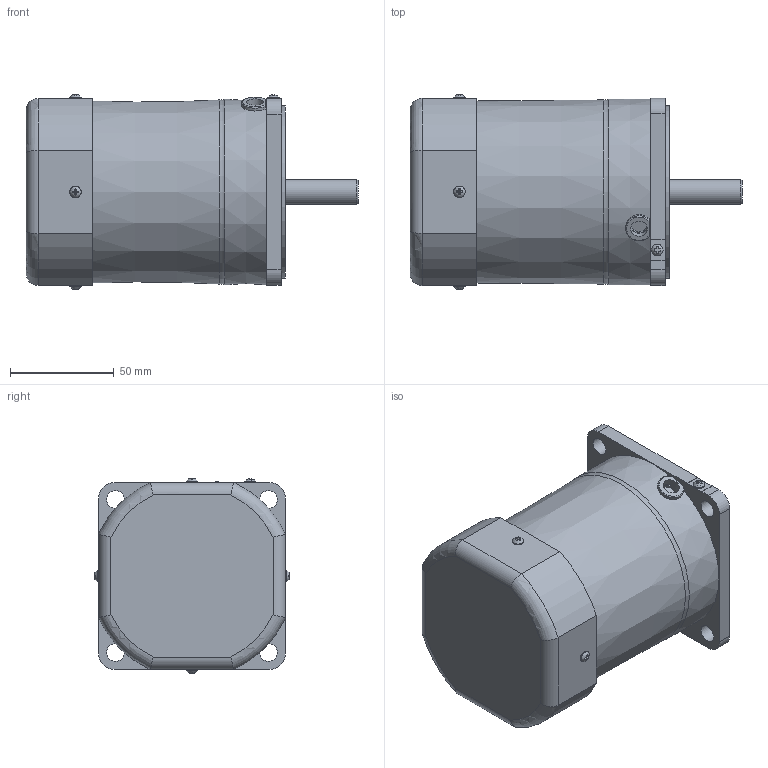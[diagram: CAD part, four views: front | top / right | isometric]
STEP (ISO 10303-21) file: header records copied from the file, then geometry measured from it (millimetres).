
FILE_DESCRIPTION(/* description */ (''),/* implementation_level */ '2;1');
FILE_NAME(/* name */ 'E:\도면작업\2016\0704) 미주향 SG 도면\3D MOTOR\SG9I60S_.stp',/* time_stamp */ '2016-07-22T13:51:45+09:00',/* author */ ('jy-jung'),/* organization */ (''),/* preprocessor_version */ 'ST-DEVELOPER v15.6',/* originating_system */ 'Autodesk Inventor 2015',/* authorisation */ '');
FILE_SCHEMA (('AUTOMOTIVE_DESIGN { 1 0 10303 214 3 1 1 }'));
Length unit declared in the file: millimetre
Products named in the file (1): 부품2
Bounding box: 159.8 x 93.89 x 93.89 mm (x, y, z)
Volume: 793650.3 mm3; surface area: 57878.7 mm2
Topology: 1 solids, 6 shells, 192 faces, 491 edges, 324 vertices
Faces by surface type: plane 120, cylinder 46, torus 14, cone 7, bspline 5
Full cylindrical faces by diameter (mm): 3 x4, 3.5 x4, 5.6 x5, 8 x1, 8.5 x4, 10 x1, 12 x1, 40 x1, 83 x1
Entity records: 6254 total; most frequent: CARTESIAN_POINT 1605, ORIENTED_EDGE 886, DIRECTION 858, EDGE_CURVE 443, VERTEX_POINT 315, AXIS2_PLACEMENT_3D 310, EDGE_LOOP 262, LINE 238
